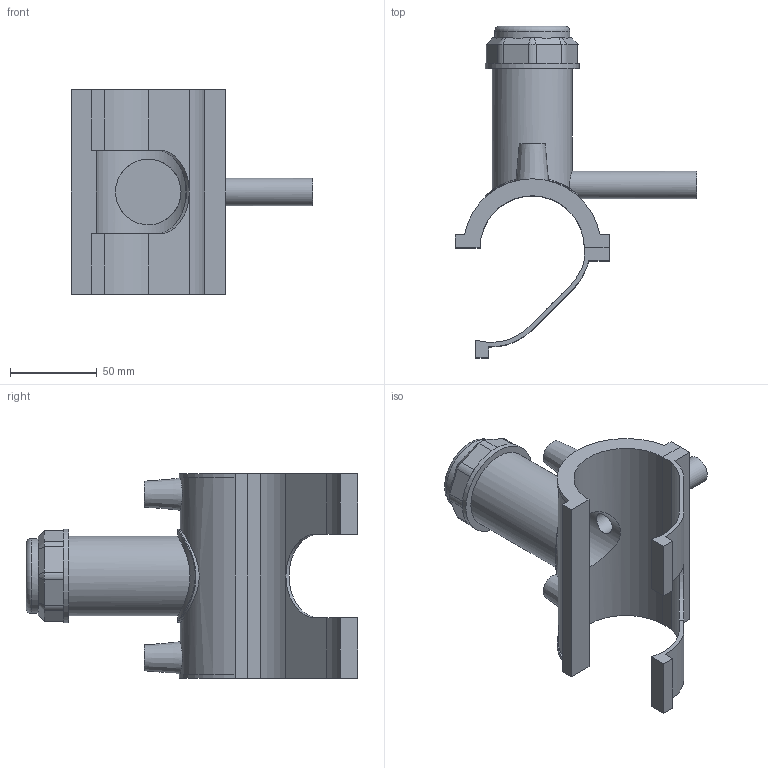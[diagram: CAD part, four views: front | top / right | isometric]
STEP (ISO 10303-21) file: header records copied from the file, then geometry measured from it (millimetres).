
FILE_DESCRIPTION(/* description */ ('PLASSON TAPPING SADDLE 2''''IPS x 1 1/2''''CTS'),/* implementation_level */ '2;1');
FILE_NAME(/* name */ 'C:\Dropbox\KIMPROJECTS-Inventor 2019\99-16-3568-Processing Inch\ASTM ElectroFusion 2021\5963B\5963BU03020005.ipt.stp',/* time_stamp */ '2021-08-30T09:56:05+03:00',/* author */ ('KIM'),/* organization */ (''),/* preprocessor_version */ 'ST-DEVELOPER v17.2',/* originating_system */ 'Autodesk Inventor 2019',/* authorisation */ '');
FILE_SCHEMA (('AUTOMOTIVE_DESIGN { 1 0 10303 214 3 1 1 }'));
Length unit declared in the file: millimetre
Products named in the file (1): 5963BU03020005
Bounding box: 139.45 x 191.49 x 118.11 mm (x, y, z)
Volume: 245075.8 mm3; surface area: 87392.6 mm2
Topology: 2 solids, 2 shells, 106 faces, 270 edges, 178 vertices
Faces by surface type: plane 63, cylinder 31, cone 10, torus 1, bspline 1
Full cylindrical faces by diameter (mm): 4 x2, 10 x2, 12.64 x1, 15.8 x1, 37.863 x1, 43.272 x1, 45.977 x1, 54.09 x2
Entity records: 3761 total; most frequent: CARTESIAN_POINT 1094, DIRECTION 553, ORIENTED_EDGE 542, EDGE_CURVE 271, AXIS2_PLACEMENT_3D 198, VERTEX_POINT 179, LINE 157, VECTOR 157
